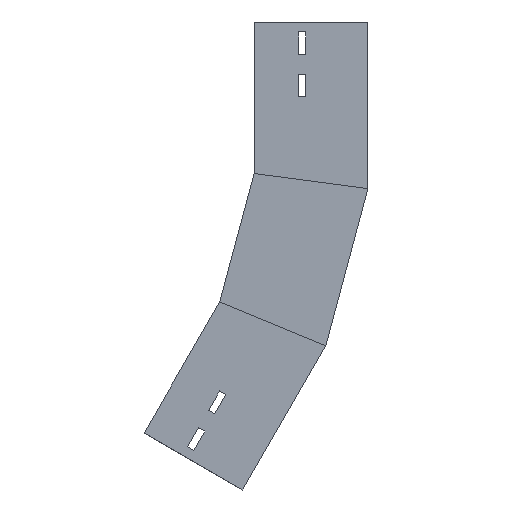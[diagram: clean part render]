
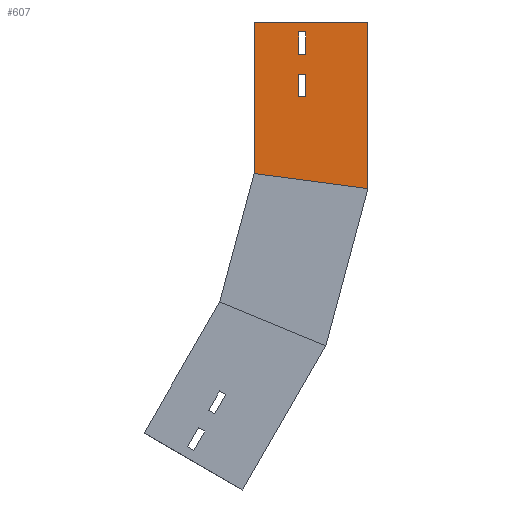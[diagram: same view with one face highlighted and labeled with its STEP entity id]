
A CAD part, left-side view. The second image highlights one B-rep face of the part: STEP entity #607.
In plain terms, the highlighted planar face has unit normal (-1, 0, 0) as drawn and (1, 0, 0) by its records, which use the part's own axes.
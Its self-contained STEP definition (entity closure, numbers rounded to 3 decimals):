
#16 = VERTEX_POINT ( 'NONE', #609 ) ;
#22 = CARTESIAN_POINT ( 'NONE',  ( 0., 221.372, -406.315 ) ) ;
#34 = CARTESIAN_POINT ( 'NONE',  ( 0., 178.349, -419.798 ) ) ;
#41 = EDGE_CURVE ( 'NONE', #423, #16, #269, .T. ) ;
#45 = CARTESIAN_POINT ( 'NONE',  ( 0., 157.514, -383.711 ) ) ;
#48 = VECTOR ( 'NONE', #1143, 1000. ) ;
#71 = CARTESIAN_POINT ( 'NONE',  ( 0., 140.452, -368.158 ) ) ;
#89 = CARTESIAN_POINT ( 'NONE',  ( 0., 178.349, -419.798 ) ) ;
#107 = LINE ( 'NONE', #570, #48 ) ;
#122 = VECTOR ( 'NONE', #1087, 1000. ) ;
#123 = LINE ( 'NONE', #300, #896 ) ;
#128 = CARTESIAN_POINT ( 'NONE',  ( 0., 146.477, -276.594 ) ) ;
#177 = ORIENTED_EDGE ( 'NONE', *, *, #732, .F. ) ;
#237 = DIRECTION ( 'NONE',  ( 0., -0.866, -0.5 ) ) ;
#240 = VERTEX_POINT ( 'NONE', #71 ) ;
#259 = LINE ( 'NONE', #34, #377 ) ;
#269 = LINE ( 'NONE', #955, #729 ) ;
#292 = DIRECTION ( 'NONE',  ( 0., -0.5, 0.866 ) ) ;
#294 = ORIENTED_EDGE ( 'NONE', *, *, #1218, .F. ) ;
#300 = CARTESIAN_POINT ( 'NONE',  ( 0., 157.514, -383.711 ) ) ;
#305 = VERTEX_POINT ( 'NONE', #502 ) ;
#310 = LINE ( 'NONE', #765, #962 ) ;
#330 = FACE_BOUND ( 'NONE', #707, .T. ) ;
#343 = VERTEX_POINT ( 'NONE', #1283 ) ;
#377 = VECTOR ( 'NONE', #942, 1000. ) ;
#384 = CARTESIAN_POINT ( 'NONE',  ( 0., 139.072, -263.767 ) ) ;
#391 = DIRECTION ( 'NONE',  ( 0., 0.5, -0.866 ) ) ;
#399 = DIRECTION ( 'NONE',  ( 0., 0.5, -0.866 ) ) ;
#423 = VERTEX_POINT ( 'NONE', #1354 ) ;
#428 = CARTESIAN_POINT ( 'NONE',  ( 0., 157.514, -383.711 ) ) ;
#448 = FACE_OUTER_BOUND ( 'NONE', #1476, .T. ) ;
#449 = VECTOR ( 'NONE', #391, 1000. ) ;
#486 = VERTEX_POINT ( 'NONE', #1067 ) ;
#489 = DIRECTION ( 'NONE',  ( 0., 0.5, -0.866 ) ) ;
#492 = VERTEX_POINT ( 'NONE', #22 ) ;
#494 = EDGE_CURVE ( 'NONE', #919, #486, #1185, .T. ) ;
#502 = CARTESIAN_POINT ( 'NONE',  ( 0., 178.349, -419.798 ) ) ;
#523 = EDGE_CURVE ( 'NONE', #16, #492, #1314, .T. ) ;
#538 = LINE ( 'NONE', #627, #122 ) ;
#539 = EDGE_CURVE ( 'NONE', #1024, #1338, #123, .T. ) ;
#546 = VECTOR ( 'NONE', #237, 1000. ) ;
#557 = EDGE_CURVE ( 'NONE', #240, #1024, #538, .T. ) ;
#565 = LINE ( 'NONE', #89, #1105 ) ;
#570 = CARTESIAN_POINT ( 'NONE',  ( 0., 167.349, -400.745 ) ) ;
#607 = ADVANCED_FACE ( 'NONE', ( #330, #1031, #448 ), #883, .F. ) ;
#609 = CARTESIAN_POINT ( 'NONE',  ( 0., 123.944, -462.565 ) ) ;
#619 = CARTESIAN_POINT ( 'NONE',  ( 0., 123.944, -462.565 ) ) ;
#622 = VERTEX_POINT ( 'NONE', #1267 ) ;
#627 = CARTESIAN_POINT ( 'NONE',  ( 0., 151.452, -387.211 ) ) ;
#670 = EDGE_CURVE ( 'NONE', #305, #343, #565, .T. ) ;
#707 = EDGE_LOOP ( 'NONE', ( #1093, #294, #1102, #1096 ) ) ;
#713 = VECTOR ( 'NONE', #489, 1000. ) ;
#725 = VECTOR ( 'NONE', #1423, 1000. ) ;
#729 = VECTOR ( 'NONE', #399, 1000. ) ;
#732 = EDGE_CURVE ( 'NONE', #622, #240, #813, .T. ) ;
#737 = ORIENTED_EDGE ( 'NONE', *, *, #557, .F. ) ;
#748 = AXIS2_PLACEMENT_3D ( 'NONE', #789, #1483, #903 ) ;
#765 = CARTESIAN_POINT ( 'NONE',  ( 0., 61.047, -311.98 ) ) ;
#789 = CARTESIAN_POINT ( 'NONE',  ( 0., 41.644, -320.017 ) ) ;
#813 = LINE ( 'NONE', #1381, #546 ) ;
#839 = LINE ( 'NONE', #384, #449 ) ;
#883 = PLANE ( 'NONE',  #748 ) ;
#896 = VECTOR ( 'NONE', #1454, 1000. ) ;
#903 = DIRECTION ( 'NONE',  ( 0., 0., 1. ) ) ;
#919 = VERTEX_POINT ( 'NONE', #1343 ) ;
#942 = DIRECTION ( 'NONE',  ( 0., 0.866, 0.5 ) ) ;
#946 = EDGE_CURVE ( 'NONE', #1338, #622, #1445, .T. ) ;
#955 = CARTESIAN_POINT ( 'NONE',  ( 0., 41.644, -320.017 ) ) ;
#962 = VECTOR ( 'NONE', #1466, 1000. ) ;
#967 = ORIENTED_EDGE ( 'NONE', *, *, #539, .F. ) ;
#972 = ORIENTED_EDGE ( 'NONE', *, *, #1216, .F. ) ;
#1016 = CARTESIAN_POINT ( 'NONE',  ( 0., 151.452, -387.211 ) ) ;
#1024 = VERTEX_POINT ( 'NONE', #1016 ) ;
#1028 = DIRECTION ( 'NONE',  ( 0., -0.5, 0.866 ) ) ;
#1031 = FACE_BOUND ( 'NONE', #1349, .T. ) ;
#1067 = CARTESIAN_POINT ( 'NONE',  ( 0., 172.287, -423.298 ) ) ;
#1087 = DIRECTION ( 'NONE',  ( 0., 0.5, -0.866 ) ) ;
#1088 = ORIENTED_EDGE ( 'NONE', *, *, #523, .T. ) ;
#1093 = ORIENTED_EDGE ( 'NONE', *, *, #670, .F. ) ;
#1096 = ORIENTED_EDGE ( 'NONE', *, *, #1363, .F. ) ;
#1102 = ORIENTED_EDGE ( 'NONE', *, *, #494, .F. ) ;
#1105 = VECTOR ( 'NONE', #1028, 1000. ) ;
#1143 = DIRECTION ( 'NONE',  ( 0., -0.866, -0.5 ) ) ;
#1185 = LINE ( 'NONE', #1286, #713 ) ;
#1199 = VERTEX_POINT ( 'NONE', #128 ) ;
#1216 = EDGE_CURVE ( 'NONE', #1199, #492, #839, .T. ) ;
#1218 = EDGE_CURVE ( 'NONE', #486, #305, #259, .T. ) ;
#1267 = CARTESIAN_POINT ( 'NONE',  ( 0., 146.514, -364.658 ) ) ;
#1283 = CARTESIAN_POINT ( 'NONE',  ( 0., 167.349, -400.745 ) ) ;
#1286 = CARTESIAN_POINT ( 'NONE',  ( 0., 172.287, -423.298 ) ) ;
#1291 = ORIENTED_EDGE ( 'NONE', *, *, #946, .F. ) ;
#1300 = ORIENTED_EDGE ( 'NONE', *, *, #1447, .T. ) ;
#1314 = LINE ( 'NONE', #619, #725 ) ;
#1338 = VERTEX_POINT ( 'NONE', #428 ) ;
#1343 = CARTESIAN_POINT ( 'NONE',  ( 0., 161.287, -404.245 ) ) ;
#1349 = EDGE_LOOP ( 'NONE', ( #1291, #967, #737, #177 ) ) ;
#1354 = CARTESIAN_POINT ( 'NONE',  ( 0., 41.644, -320.017 ) ) ;
#1363 = EDGE_CURVE ( 'NONE', #343, #919, #107, .T. ) ;
#1381 = CARTESIAN_POINT ( 'NONE',  ( 0., 146.514, -364.658 ) ) ;
#1391 = ORIENTED_EDGE ( 'NONE', *, *, #41, .T. ) ;
#1393 = VECTOR ( 'NONE', #292, 1000. ) ;
#1423 = DIRECTION ( 'NONE',  ( 0., 0.866, 0.5 ) ) ;
#1445 = LINE ( 'NONE', #45, #1393 ) ;
#1447 = EDGE_CURVE ( 'NONE', #1199, #423, #310, .T. ) ;
#1454 = DIRECTION ( 'NONE',  ( 0., 0.866, 0.5 ) ) ;
#1466 = DIRECTION ( 'NONE',  ( 0., -0.924, -0.383 ) ) ;
#1476 = EDGE_LOOP ( 'NONE', ( #1300, #1391, #1088, #972 ) ) ;
#1483 = DIRECTION ( 'NONE',  ( -1., 0., 0. ) ) ;
